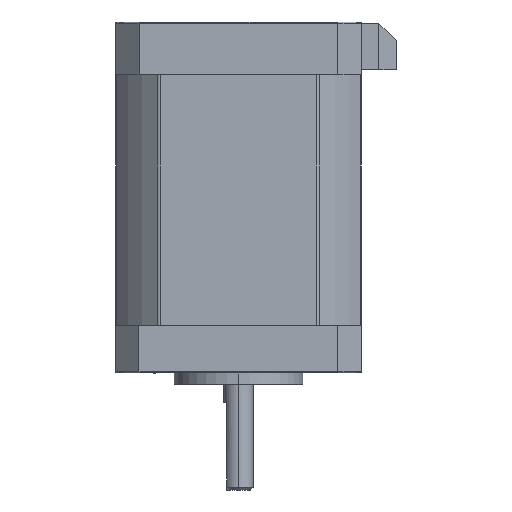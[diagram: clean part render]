
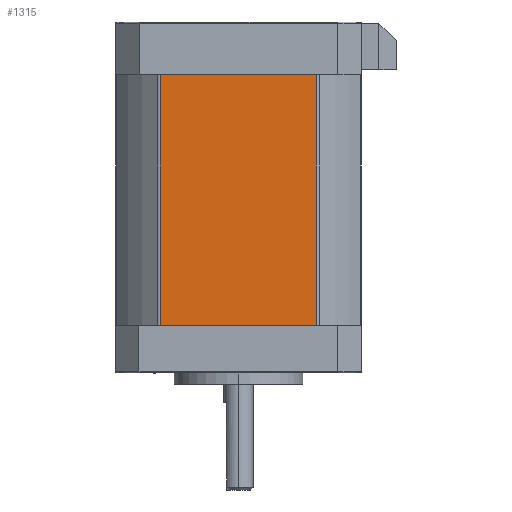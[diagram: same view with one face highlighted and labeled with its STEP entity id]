
A CAD part, left-side view. The second image highlights one B-rep face of the part: STEP entity #1315.
In plain terms, the highlighted planar face has unit normal (-1, 0, 0).
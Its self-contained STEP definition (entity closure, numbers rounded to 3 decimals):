
#126 = CARTESIAN_POINT ( 'NONE',  ( -20.98, 13.351, 50.9 ) ) ;
#974 = DIRECTION ( 'NONE',  ( 0., -1., 0. ) ) ;
#1076 = CARTESIAN_POINT ( 'NONE',  ( -20.98, -13.651, 50.9 ) ) ;
#1199 = ORIENTED_EDGE ( 'NONE', *, *, #3951, .T. ) ;
#1315 = ADVANCED_FACE ( 'NONE', ( #3563 ), #10003, .F. ) ;
#3207 = CARTESIAN_POINT ( 'NONE',  ( -20.98, 13.351, 8. ) ) ;
#3563 = FACE_OUTER_BOUND ( 'NONE', #14793, .T. ) ;
#3699 = DIRECTION ( 'NONE',  ( 0., -1., 0. ) ) ;
#3793 = ORIENTED_EDGE ( 'NONE', *, *, #6329, .T. ) ;
#3951 = EDGE_CURVE ( 'NONE', #10570, #14861, #11785, .T. ) ;
#3971 = VERTEX_POINT ( 'NONE', #4772 ) ;
#4602 = DIRECTION ( 'NONE',  ( 0., 0., 1. ) ) ;
#4742 = ORIENTED_EDGE ( 'NONE', *, *, #8795, .F. ) ;
#4772 = CARTESIAN_POINT ( 'NONE',  ( -20.98, -13.351, 50.9 ) ) ;
#5248 = LINE ( 'NONE', #7995, #7391 ) ;
#5382 = VECTOR ( 'NONE', #3699, 1000. ) ;
#5440 = DIRECTION ( 'NONE',  ( 0., 0., -1. ) ) ;
#5902 = CARTESIAN_POINT ( 'NONE',  ( -20.98, -13.351, 50.9 ) ) ;
#6154 = ORIENTED_EDGE ( 'NONE', *, *, #14902, .T. ) ;
#6329 = EDGE_CURVE ( 'NONE', #14861, #9147, #5248, .T. ) ;
#6510 = LINE ( 'NONE', #5902, #9593 ) ;
#6698 = CARTESIAN_POINT ( 'NONE',  ( -20.98, -13.351, 8. ) ) ;
#7391 = VECTOR ( 'NONE', #974, 1000. ) ;
#7525 = CARTESIAN_POINT ( 'NONE',  ( -20.98, 13.351, 50.9 ) ) ;
#7995 = CARTESIAN_POINT ( 'NONE',  ( -20.98, -13.651, 8. ) ) ;
#8171 = DIRECTION ( 'NONE',  ( 0., 0., -1. ) ) ;
#8795 = EDGE_CURVE ( 'NONE', #10570, #3971, #15203, .T. ) ;
#9147 = VERTEX_POINT ( 'NONE', #6698 ) ;
#9593 = VECTOR ( 'NONE', #4602, 1000. ) ;
#10003 = PLANE ( 'NONE',  #12702 ) ;
#10078 = CARTESIAN_POINT ( 'NONE',  ( -20.98, -13.651, 50.9 ) ) ;
#10531 = VECTOR ( 'NONE', #8171, 1000. ) ;
#10570 = VERTEX_POINT ( 'NONE', #7525 ) ;
#11785 = LINE ( 'NONE', #126, #10531 ) ;
#12702 = AXIS2_PLACEMENT_3D ( 'NONE', #10078, #13684, #5440 ) ;
#13684 = DIRECTION ( 'NONE',  ( 1., 0., 0. ) ) ;
#14793 = EDGE_LOOP ( 'NONE', ( #3793, #6154, #4742, #1199 ) ) ;
#14861 = VERTEX_POINT ( 'NONE', #3207 ) ;
#14902 = EDGE_CURVE ( 'NONE', #9147, #3971, #6510, .T. ) ;
#15203 = LINE ( 'NONE', #1076, #5382 ) ;
